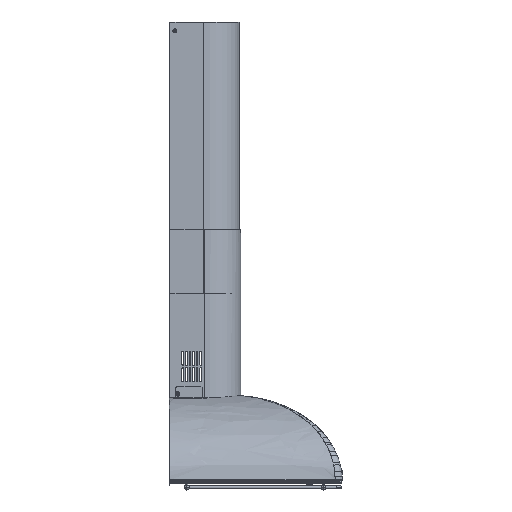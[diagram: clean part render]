
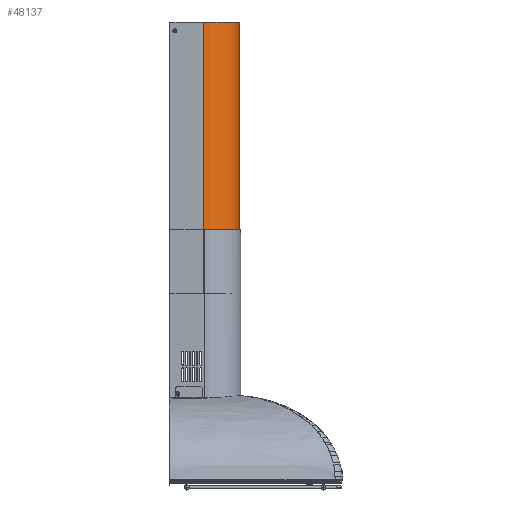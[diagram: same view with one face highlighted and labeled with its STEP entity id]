
A CAD part, left-side view. The second image highlights one B-rep face of the part: STEP entity #48137.
In plain terms, the highlighted cylindrical face has radius 100.2 mm (diameter 200.4 mm), a partial arc.
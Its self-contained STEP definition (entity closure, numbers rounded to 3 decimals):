
#48110=AXIS2_PLACEMENT_3D('Cylinder Axis2P3D',#48107,#48108,#48109) ;
#48114=AXIS2_PLACEMENT_3D('Circle Axis2P3D',#48112,#48113,$) ;
#48128=AXIS2_PLACEMENT_3D('Circle Axis2P3D',#48126,#48127,$) ;
#48072=CARTESIAN_POINT('Line Origine',(450.,399.8,2034.6)) ;
#48076=CARTESIAN_POINT('Vertex',(450.,399.8,2800.)) ;
#48078=CARTESIAN_POINT('Vertex',(450.,399.8,2040.)) ;
#48107=CARTESIAN_POINT('Axis2P3D Location',(450.,500.,2034.6)) ;
#48112=CARTESIAN_POINT('Axis2P3D Location',(450.,500.,2800.)) ;
#48116=CARTESIAN_POINT('Vertex',(349.8,500.,2800.)) ;
#48119=CARTESIAN_POINT('Line Origine',(349.8,500.,2034.6)) ;
#48123=CARTESIAN_POINT('Vertex',(349.8,500.,2040.)) ;
#48126=CARTESIAN_POINT('Axis2P3D Location',(450.,500.,2040.)) ;
#48073=DIRECTION('Vector Direction',(0.,0.,-1.)) ;
#48108=DIRECTION('Axis2P3D Direction',(0.,0.,-1.)) ;
#48109=DIRECTION('Axis2P3D XDirection',(0.,-1.,0.)) ;
#48113=DIRECTION('Axis2P3D Direction',(0.,0.,-1.)) ;
#48120=DIRECTION('Vector Direction',(0.,0.,-1.)) ;
#48127=DIRECTION('Axis2P3D Direction',(0.,0.,-1.)) ;
#48074=VECTOR('Line Direction',#48073,1.) ;
#48121=VECTOR('Line Direction',#48120,1.) ;
#48132=ORIENTED_EDGE('',*,*,#48080,.F.) ;
#48133=ORIENTED_EDGE('',*,*,#48118,.T.) ;
#48134=ORIENTED_EDGE('',*,*,#48125,.F.) ;
#48135=ORIENTED_EDGE('',*,*,#48130,.T.) ;
#48137=ADVANCED_FACE('PartBody',(#48136),#48111,.T.) ;
#48115=CIRCLE('generated circle',#48114,100.2) ;
#48129=CIRCLE('generated circle',#48128,100.2) ;
#48111=CYLINDRICAL_SURFACE('generated cylinder',#48110,100.2) ;
#48080=EDGE_CURVE('',#48077,#48079,#48075,.T.) ;
#48118=EDGE_CURVE('',#48077,#48117,#48115,.T.) ;
#48125=EDGE_CURVE('',#48124,#48117,#48122,.F.) ;
#48130=EDGE_CURVE('',#48124,#48079,#48129,.F.) ;
#48131=EDGE_LOOP('',(#48132,#48133,#48134,#48135)) ;
#48136=FACE_OUTER_BOUND('',#48131,.T.) ;
#48075=LINE('Line',#48072,#48074) ;
#48122=LINE('Line',#48119,#48121) ;
#48077=VERTEX_POINT('',#48076) ;
#48079=VERTEX_POINT('',#48078) ;
#48117=VERTEX_POINT('',#48116) ;
#48124=VERTEX_POINT('',#48123) ;
